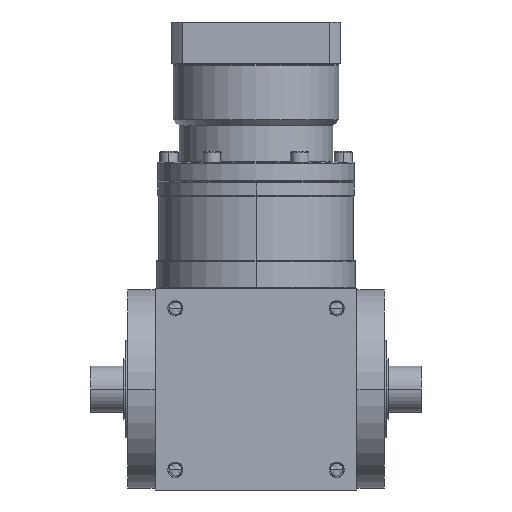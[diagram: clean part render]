
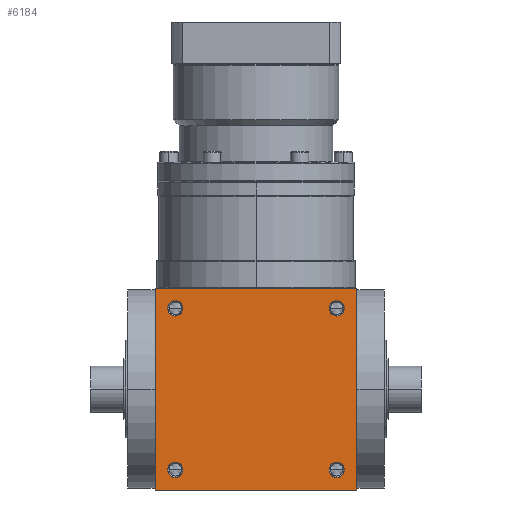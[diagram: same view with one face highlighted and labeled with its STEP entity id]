
A CAD part, front view. The second image highlights one B-rep face of the part: STEP entity #6184.
In plain terms, the highlighted planar face has unit normal (0, -1, 0).
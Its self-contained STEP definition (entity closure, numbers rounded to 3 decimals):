
#1957=DIRECTION('',(1.,0.,0.));
#1958=VECTOR('',#1957,110.);
#1959=CARTESIAN_POINT('',(-55.,-55.,-55.));
#1960=LINE('',#1959,#1958);
#2107=DIRECTION('',(0.,0.,1.));
#2108=VECTOR('',#2107,110.);
#2109=CARTESIAN_POINT('',(55.,-55.,-55.));
#2110=LINE('',#2109,#2108);
#2161=DIRECTION('',(0.,0.,1.));
#2162=VECTOR('',#2161,110.);
#2163=CARTESIAN_POINT('',(-55.,-55.,-55.));
#2164=LINE('',#2163,#2162);
#2165=CARTESIAN_POINT('',(44.,-55.,44.));
#2166=DIRECTION('',(0.,1.,0.));
#2167=DIRECTION('',(-1.,0.,0.));
#2168=AXIS2_PLACEMENT_3D('',#2165,#2166,#2167);
#2170=CARTESIAN_POINT('',(44.,-55.,44.));
#2171=DIRECTION('',(0.,1.,0.));
#2172=DIRECTION('',(1.,0.,0.));
#2173=AXIS2_PLACEMENT_3D('',#2170,#2171,#2172);
#2175=CARTESIAN_POINT('',(-44.,-55.,44.));
#2176=DIRECTION('',(0.,1.,0.));
#2177=DIRECTION('',(-1.,0.,0.));
#2178=AXIS2_PLACEMENT_3D('',#2175,#2176,#2177);
#2180=CARTESIAN_POINT('',(-44.,-55.,44.));
#2181=DIRECTION('',(0.,1.,0.));
#2182=DIRECTION('',(1.,0.,0.));
#2183=AXIS2_PLACEMENT_3D('',#2180,#2181,#2182);
#2185=CARTESIAN_POINT('',(44.,-55.,-44.));
#2186=DIRECTION('',(0.,1.,0.));
#2187=DIRECTION('',(-1.,0.,0.));
#2188=AXIS2_PLACEMENT_3D('',#2185,#2186,#2187);
#2190=CARTESIAN_POINT('',(44.,-55.,-44.));
#2191=DIRECTION('',(0.,1.,0.));
#2192=DIRECTION('',(1.,0.,0.));
#2193=AXIS2_PLACEMENT_3D('',#2190,#2191,#2192);
#2195=CARTESIAN_POINT('',(-44.,-55.,-44.));
#2196=DIRECTION('',(0.,1.,0.));
#2197=DIRECTION('',(-1.,0.,0.));
#2198=AXIS2_PLACEMENT_3D('',#2195,#2196,#2197);
#2200=CARTESIAN_POINT('',(-44.,-55.,-44.));
#2201=DIRECTION('',(0.,1.,0.));
#2202=DIRECTION('',(1.,0.,0.));
#2203=AXIS2_PLACEMENT_3D('',#2200,#2201,#2202);
#2217=DIRECTION('',(1.,0.,0.));
#2218=VECTOR('',#2217,110.);
#2219=CARTESIAN_POINT('',(-55.,-55.,55.));
#2220=LINE('',#2219,#2218);
#5366=CARTESIAN_POINT('',(-55.,-55.,-55.));
#5368=VERTEX_POINT('',#5366);
#5369=CARTESIAN_POINT('',(55.,-55.,-55.));
#5370=VERTEX_POINT('',#5369);
#5374=CARTESIAN_POINT('',(-55.,-55.,55.));
#5376=VERTEX_POINT('',#5374);
#5377=CARTESIAN_POINT('',(55.,-55.,55.));
#5378=VERTEX_POINT('',#5377);
#5557=CARTESIAN_POINT('',(39.8,-55.,44.));
#5558=CARTESIAN_POINT('',(48.2,-55.,44.));
#5559=VERTEX_POINT('',#5557);
#5560=VERTEX_POINT('',#5558);
#5565=CARTESIAN_POINT('',(-48.2,-55.,44.));
#5566=CARTESIAN_POINT('',(-39.8,-55.,44.));
#5567=VERTEX_POINT('',#5565);
#5568=VERTEX_POINT('',#5566);
#5573=CARTESIAN_POINT('',(39.8,-55.,-44.));
#5574=CARTESIAN_POINT('',(48.2,-55.,-44.));
#5575=VERTEX_POINT('',#5573);
#5576=VERTEX_POINT('',#5574);
#5581=CARTESIAN_POINT('',(-48.2,-55.,-44.));
#5582=CARTESIAN_POINT('',(-39.8,-55.,-44.));
#5583=VERTEX_POINT('',#5581);
#5584=VERTEX_POINT('',#5582);
#6148=CARTESIAN_POINT('',(-55.,-55.,-55.));
#6149=DIRECTION('',(0.,-1.,0.));
#6150=DIRECTION('',(1.,0.,0.));
#6151=AXIS2_PLACEMENT_3D('',#6148,#6149,#6150);
#6152=PLANE('',#6151);
#6153=ORIENTED_EDGE('',*,*,#5988,.F.);
#6154=ORIENTED_EDGE('',*,*,#6031,.T.);
#6156=ORIENTED_EDGE('',*,*,#6155,.T.);
#6157=ORIENTED_EDGE('',*,*,#6110,.F.);
#6158=EDGE_LOOP('',(#6153,#6154,#6156,#6157));
#6159=FACE_OUTER_BOUND('',#6158,.F.);
#6161=ORIENTED_EDGE('',*,*,#6160,.F.);
#6163=ORIENTED_EDGE('',*,*,#6162,.F.);
#6164=EDGE_LOOP('',(#6161,#6163));
#6165=FACE_BOUND('',#6164,.F.);
#6167=ORIENTED_EDGE('',*,*,#6166,.F.);
#6169=ORIENTED_EDGE('',*,*,#6168,.F.);
#6170=EDGE_LOOP('',(#6167,#6169));
#6171=FACE_BOUND('',#6170,.F.);
#6173=ORIENTED_EDGE('',*,*,#6172,.F.);
#6175=ORIENTED_EDGE('',*,*,#6174,.F.);
#6176=EDGE_LOOP('',(#6173,#6175));
#6177=FACE_BOUND('',#6176,.F.);
#6179=ORIENTED_EDGE('',*,*,#6178,.F.);
#6181=ORIENTED_EDGE('',*,*,#6180,.F.);
#6182=EDGE_LOOP('',(#6179,#6181));
#6183=FACE_BOUND('',#6182,.F.);
#6184=ADVANCED_FACE('',(#6159,#6165,#6171,#6177,#6183),#6152,.T.);
#2169=CIRCLE('',#2168,4.2);
#2174=CIRCLE('',#2173,4.2);
#2179=CIRCLE('',#2178,4.2);
#2184=CIRCLE('',#2183,4.2);
#2189=CIRCLE('',#2188,4.2);
#2194=CIRCLE('',#2193,4.2);
#2199=CIRCLE('',#2198,4.2);
#2204=CIRCLE('',#2203,4.2);
#5988=EDGE_CURVE('',#5368,#5370,#1960,.T.);
#6031=EDGE_CURVE('',#5368,#5376,#2164,.T.);
#6110=EDGE_CURVE('',#5370,#5378,#2110,.T.);
#6155=EDGE_CURVE('',#5376,#5378,#2220,.T.);
#6160=EDGE_CURVE('',#5559,#5560,#2169,.T.);
#6162=EDGE_CURVE('',#5560,#5559,#2174,.T.);
#6166=EDGE_CURVE('',#5567,#5568,#2179,.T.);
#6168=EDGE_CURVE('',#5568,#5567,#2184,.T.);
#6172=EDGE_CURVE('',#5575,#5576,#2189,.T.);
#6174=EDGE_CURVE('',#5576,#5575,#2194,.T.);
#6178=EDGE_CURVE('',#5583,#5584,#2199,.T.);
#6180=EDGE_CURVE('',#5584,#5583,#2204,.T.);
